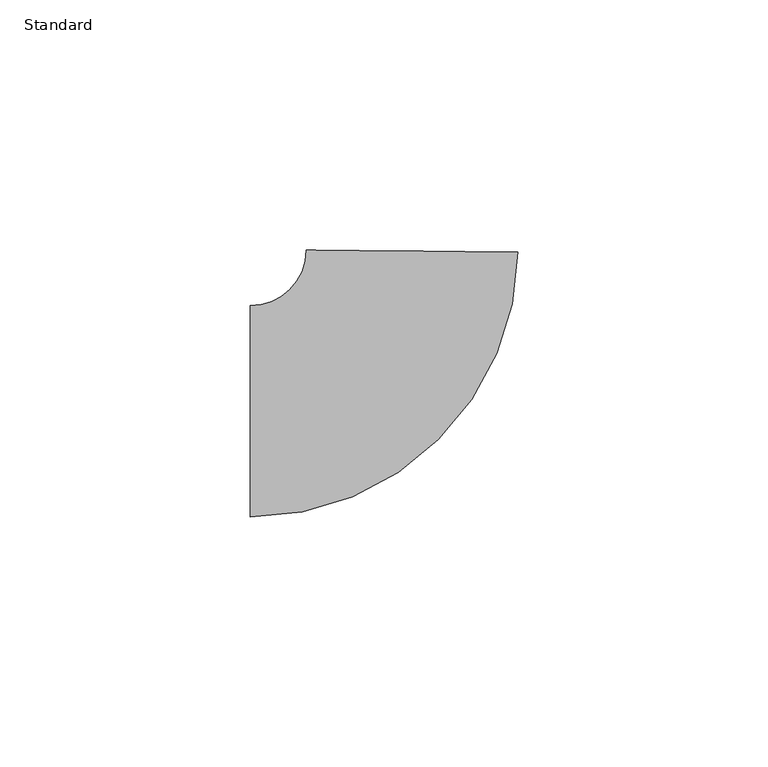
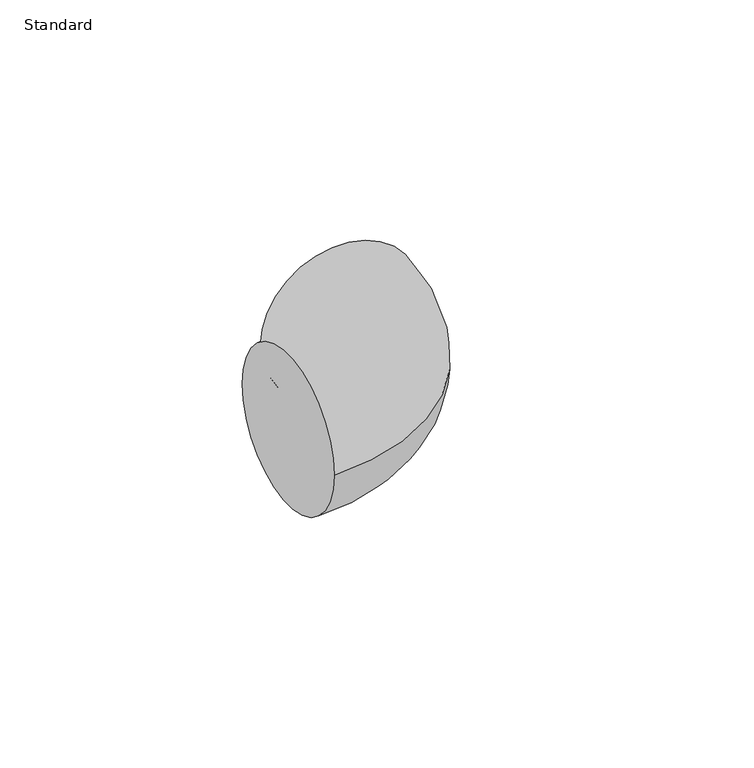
"""IFC4 building model written with IfcOpenShell, lengths in millimetres: pipe fitting geometry, Coude - Générique : Standard."""

from ifc_helpers import new_model, si_unit, point, frame, origin, place, context, project, spatial, circle_curve, ellipse_curve, trimmed, source, transform, mapped, element, save
from ifc_brep_helpers import plane_surface, revolved_surface, advanced_brep


def standard_e5ec0ef9(model_context):
    return source(origin(), model_context, "Body", "AdvancedBrep", [
        advanced_brep(
        [(-32.0, -21.1, 0.0), (-32.0, 21.1, 0.0), (21.4189291, 31.7874107, 0.0), (-20.7789611, 32.2093896, 0.0)],
        [
            (0, 1, circle_curve(frame((-32.0, 0.0, 0.0), z_axis=(-1.0, 0.0, 0.0), x_axis=(0.0, 1.0, 0.0)), 21.1)),
            (1, 0, circle_curve(frame((-32.0, 0.0, 0.0), z_axis=(-1.0, 0.0, 0.0), x_axis=(0.0, 1.0, 0.0)), 21.1)),
            (2, 3, circle_curve(frame((0.319984, 31.9984001, 0.0), z_axis=(0.009999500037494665, 0.9999500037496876, 0.0), x_axis=(-0.9999500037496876, 0.009999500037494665, 0.0)), 21.1)),
            (3, 2, circle_curve(frame((0.319984, 31.9984001, 0.0), z_axis=(0.009999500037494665, 0.9999500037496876, 0.0), x_axis=(-0.9999500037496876, 0.009999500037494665, 0.0)), 21.1)),
            (3, 1, circle_curve(frame((-32.0, 32.3216, 0.0), z_axis=(0.0, 0.0, -1.0), x_axis=(0.0, -1.0, 0.0)), 11.2216)),
            (0, 2, circle_curve(frame((-32.0, 32.3216, 0.0), z_axis=(0.0, 0.0, 1.0), x_axis=(0.0, -1.0, 0.0)), 53.4216)),
        ],
        [
            plane_surface(frame((-32.0, 0.0, 0.0), z_axis=(-1.0, 0.0, 0.0), x_axis=(0.0, 0.0, 1.0))),
            plane_surface(frame((0.319984, 31.9984001, 0.0), z_axis=(0.009999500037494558, 0.9999500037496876, 0.0), x_axis=(0.0, 0.0, 1.0))),
            revolved_surface(trimmed(ellipse_curve(frame((-32.0, 0.0, 0.0), z_axis=(-1.0, 0.0, 0.0), x_axis=(0.0, 1.0, 0.0)), 21.1, 21.1), [point((-32.0, -21.1, 0.0))], [point((-32.0, 21.1, 0.0))], True, "CARTESIAN"), (-32.0, 32.3216, 0.0), (0.0, 0.0, 1.0)),
            revolved_surface(trimmed(ellipse_curve(frame((-32.0, 0.0, 0.0), z_axis=(-1.0, 0.0, 0.0), x_axis=(0.0, 1.0, 0.0)), 21.1, 21.1), [point((-32.0, 21.1, 0.0))], [point((-32.0, -21.1, 0.0))], True, "CARTESIAN"), (-32.0, 32.3216, 0.0), (0.0, 0.0, 1.0)),
        ],
        [
            (0, [[1, 2]]),
            (1, [[3, 4]]),
            (2, [[5, -1, 6, -4]]),
            (3, [[-6, -2, -5, -3]]),
        ],
    ),
    ])


if __name__ == "__main__":
    model = new_model("IFC4")
    model_context = context("Model", 3, world=origin())
    ifc_project = project(units=[si_unit("LENGTHUNIT", "METRE", prefix="MILLI")], contexts=[model_context])
    site = spatial("IfcSite", under=ifc_project)
    building = spatial("IfcBuilding", under=site)
    placement = place(None, origin())
    standard_shape = standard_e5ec0ef9(model_context)
    element("IfcPipeFitting", 1, ObjectType="Coude - Générique : Standard", at=placement, inside=building, context=model_context, shape_type="MappedRepresentation", body=[
        mapped(standard_shape, transform((0.0, 0.0, 0.0), x_axis=(1.0, 0.0, 0.0), y_axis=(0.0, 1.0, 0.0), z_axis=(0.0, 0.0, 1.0))),
    ])
    save(model, "model.ifc")
